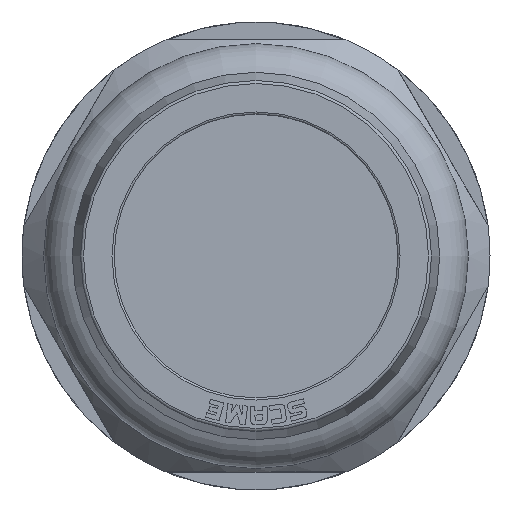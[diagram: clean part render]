
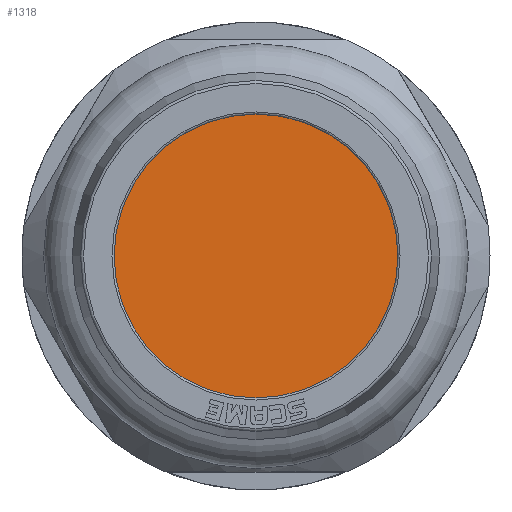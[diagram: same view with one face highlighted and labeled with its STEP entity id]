
A CAD part, left-side view. The second image highlights one B-rep face of the part: STEP entity #1318.
In plain terms, the highlighted planar face has unit normal (-1, 0, 0).
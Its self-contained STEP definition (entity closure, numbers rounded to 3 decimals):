
#959=FACE_OUTER_BOUND('',#1588,.T.);
#1318=ADVANCED_FACE('',(#959),#1459,.T.);
#1459=PLANE('',#4165);
#1588=EDGE_LOOP('',(#1757));
#1757=ORIENTED_EDGE('',*,*,#3295,.T.);
#2690=VERTEX_POINT('',#5353);
#3295=EDGE_CURVE('',#2690,#2690,#4010,.T.);
#4010=CIRCLE('',#4164,15.);
#4164=AXIS2_PLACEMENT_3D('',#5352,#4462,#4463);
#4165=AXIS2_PLACEMENT_3D('',#5354,#4464,#4465);
#4462=DIRECTION('',(-1.,0.,0.));
#4463=DIRECTION('',(0.,0.,1.));
#4464=DIRECTION('',(-1.,0.,0.));
#4465=DIRECTION('',(0.,0.,1.));
#5352=CARTESIAN_POINT('',(-21.109,27.075,0.));
#5353=CARTESIAN_POINT('',(-21.109,27.075,15.));
#5354=CARTESIAN_POINT('',(-21.109,27.075,-12.5));
